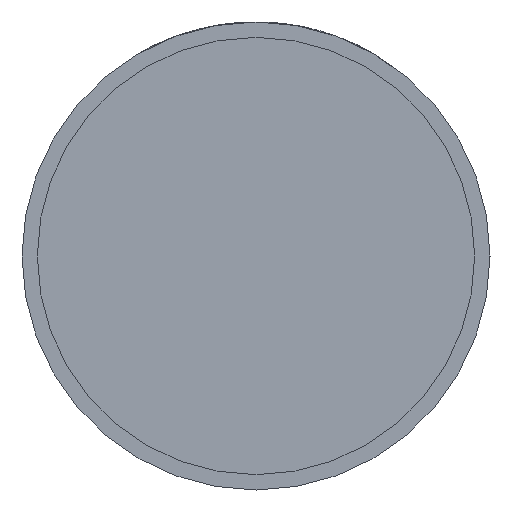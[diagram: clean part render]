
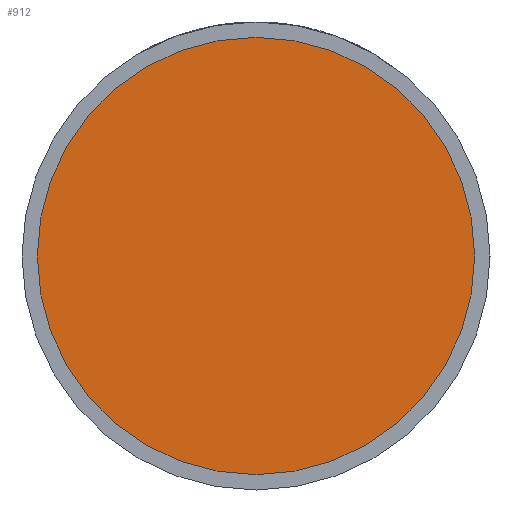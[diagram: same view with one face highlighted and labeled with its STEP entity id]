
A CAD part, front view. The second image highlights one B-rep face of the part: STEP entity #912.
In plain terms, the highlighted planar face has unit normal (0, -1, 0).
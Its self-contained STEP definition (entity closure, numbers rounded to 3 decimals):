
#199 = DIRECTION ( 'NONE',  ( 0., -1., 0. ) ) ;
#319 = CIRCLE ( 'NONE', #593, 28.5 ) ;
#434 = DIRECTION ( 'NONE',  ( 1., 0., 0. ) ) ;
#451 = ORIENTED_EDGE ( 'NONE', *, *, #1128, .T. ) ;
#593 = AXIS2_PLACEMENT_3D ( 'NONE', #4047, #1487, #434 ) ;
#737 = DIRECTION ( 'NONE',  ( 0., -1., 0. ) ) ;
#756 = CARTESIAN_POINT ( 'NONE',  ( 28.5, -17.5, 0. ) ) ;
#804 = EDGE_LOOP ( 'NONE', ( #2831, #451 ) ) ;
#861 = EDGE_CURVE ( 'NONE', #1881, #2727, #319, .T. ) ;
#912 = ADVANCED_FACE ( 'NONE', ( #2764 ), #1051, .T. ) ;
#1036 = CARTESIAN_POINT ( 'NONE',  ( -28.5, -17.5, 0. ) ) ;
#1051 = PLANE ( 'NONE',  #1970 ) ;
#1070 = CARTESIAN_POINT ( 'NONE',  ( 28.5, -17.5, 0. ) ) ;
#1128 = EDGE_CURVE ( 'NONE', #2727, #1881, #1484, .T. ) ;
#1484 = CIRCLE ( 'NONE', #3700, 28.5 ) ;
#1487 = DIRECTION ( 'NONE',  ( 0., -1., 0. ) ) ;
#1881 = VERTEX_POINT ( 'NONE', #1070 ) ;
#1970 = AXIS2_PLACEMENT_3D ( 'NONE', #756, #737, #2430 ) ;
#2105 = CARTESIAN_POINT ( 'NONE',  ( 0., -17.5, 0. ) ) ;
#2430 = DIRECTION ( 'NONE',  ( 1., 0., 0. ) ) ;
#2727 = VERTEX_POINT ( 'NONE', #1036 ) ;
#2764 = FACE_OUTER_BOUND ( 'NONE', #804, .T. ) ;
#2831 = ORIENTED_EDGE ( 'NONE', *, *, #861, .T. ) ;
#3127 = DIRECTION ( 'NONE',  ( 1., 0., 0. ) ) ;
#3700 = AXIS2_PLACEMENT_3D ( 'NONE', #2105, #199, #3127 ) ;
#4047 = CARTESIAN_POINT ( 'NONE',  ( 0., -17.5, 0. ) ) ;
